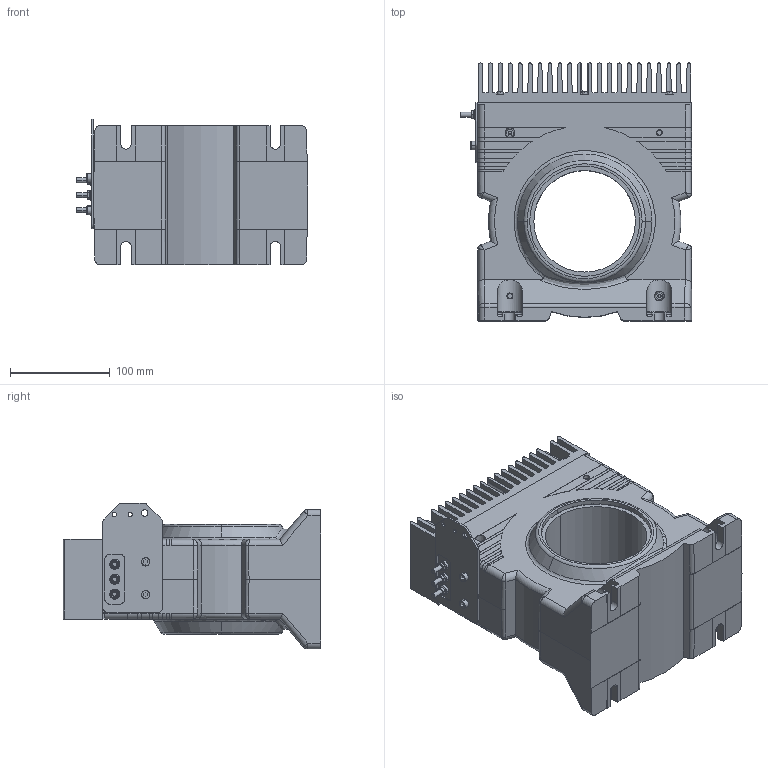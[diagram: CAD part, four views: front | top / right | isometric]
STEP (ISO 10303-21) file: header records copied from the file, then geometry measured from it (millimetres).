
FILE_DESCRIPTION(('Creo Elements/Direct Modeling STEP Export'),'2;1');
FILE_NAME('CDA CUSTOMER LT 4000-S_SP45.stp','2020-12-09T10:56:41',(''),(''),'Creo Elements/Direct Modeling STEP processor for AP214 (Solid Model)','Creo Elements/Direct Modeling 20.1 10-Mar-2018 (C) Parametric Technology GmbH','');
FILE_SCHEMA(('AUTOMOTIVE_DESIGN { 1 0 10303 214 1 1 1 1 }'));
Length unit declared in the file: millimetre
Products named in the file (2): LT 4000_S_SP45
Assembly tree (1 placements, depth 2):
  LT 4000_S_SP45
    LT 4000_S_SP45
Bounding box: 232.4 x 259 x 146.51 mm (x, y, z)
Volume: 1393927 mm3; surface area: 628346.8 mm2
Topology: 1 solids, 12 shells, 2183 faces, 5772 edges, 3630 vertices
Faces by surface type: plane 923, cylinder 564, bspline 386, cone 174, torus 86, extrusion 50
Entity records: 126326 total; most frequent: CARTESIAN_POINT 77959, ORIENTED_EDGE 11448, DIRECTION 7954, EDGE_CURVE 5724, VERTEX_POINT 3630, VECTOR 2806, LINE 2756, AXIS2_PLACEMENT_3D 2574
